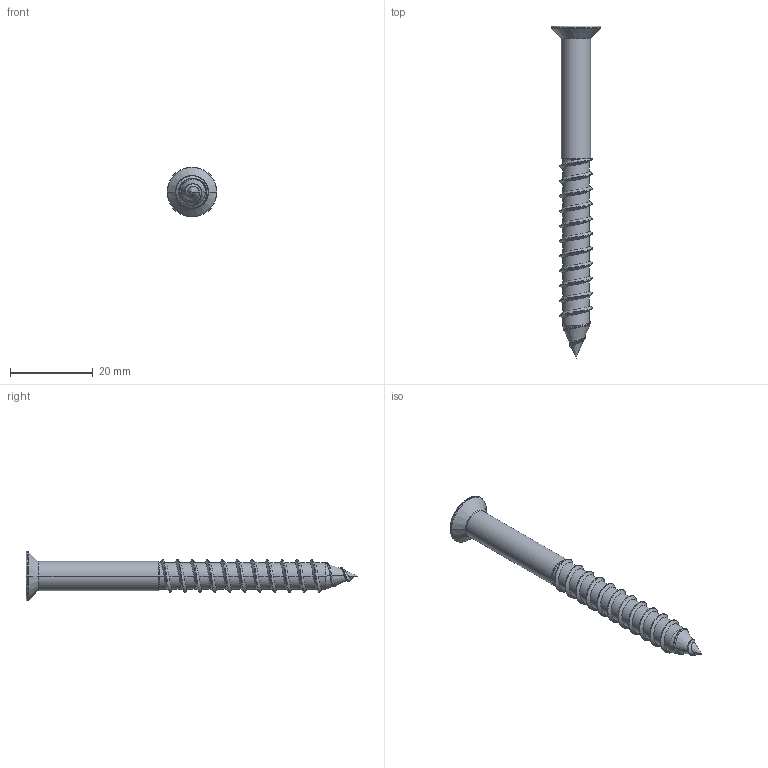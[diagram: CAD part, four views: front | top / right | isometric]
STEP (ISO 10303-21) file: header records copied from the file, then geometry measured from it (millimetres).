
FILE_DESCRIPTION (( 'STEP AP203' ), '1' );
FILE_NAME ('06.11.215-0 Wood screw f. Conan7x80 Tx30.STEP', '2024-12-18T11:16:57', ( '' ), ( '' ), 'SwSTEP 2.0', 'SolidWorks 2024', '' );
FILE_SCHEMA (( 'CONFIG_CONTROL_DESIGN' ));
Length unit declared in the file: millimetre
Products named in the file (1): 06.11.215-0 Wood screw f. Conan7x80 Tx30
Bounding box: 12 x 80 x 12 mm (x, y, z)
Surface area: 2011.5 mm2 (no closed solid volume)
Topology: 0 solids, 1 shells, 79 faces, 242 edges, 154 vertices
Faces by surface type: cylinder 30, cone 22, bspline 13, torus 9, plane 5
Entity records: 10019 total; most frequent: CARTESIAN_POINT 8138, ORIENTED_EDGE 440, DIRECTION 295, EDGE_CURVE 240, VERTEX_POINT 154, AXIS2_PLACEMENT_3D 125, B_SPLINE_CURVE_WITH_KNOTS 91, EDGE_LOOP 80
